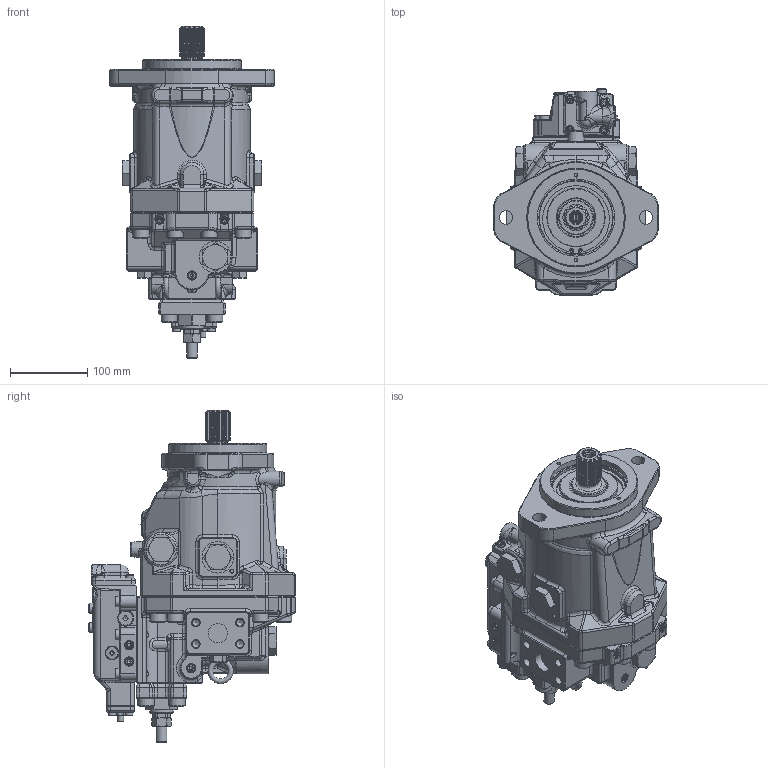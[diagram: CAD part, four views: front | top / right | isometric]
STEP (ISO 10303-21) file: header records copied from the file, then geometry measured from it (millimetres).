
FILE_DESCRIPTION(/* description */ (''),/* implementation_level */ '2;1');
FILE_NAME(/* name */ 'M7V85AB19-AA1P#XXXN-01.stp',/* time_stamp */ '2025-12-17T14:33:05Z',/* author */ ('Sjolliffe'),/* organization */ (''),/* preprocessor_version */ 'ST-DEVELOPER v20',/* originating_system */ 'Autodesk Inventor 2024',/* authorisation */ '');
FILE_SCHEMA (('CONFIG_CONTROL_DESIGN'));
Products named in the file (1): M7V85AB19-AA1P#XXXN-01
Bounding box: 213 x 267 x 430 mm (x, y, z)
Volume: 7438907.7 mm3; surface area: 365843.8 mm2
Topology: 1 solids, 1 shells, 3545 faces, 8863 edges, 5401 vertices
Faces by surface type: plane 1434, cylinder 1032, bspline 495, cone 384, torus 144, sphere 56
Full cylindrical faces by diameter (mm): 3 x1, 4 x1, 4.917 x4, 6 x2, 6.647 x1, 8 x4, 8.376 x1, 9.144 x8, 9.4 x13, 10 x8, 10.106 x1, 11 x8, 11.11 x8, 11.8 x1, 12 x14, 13 x6, 14 x8, 16 x1, 17.5 x2, 18 x2, 19 x1, 21 x13, 23 x12, 24 x3, 25 x2, 26 x1, 30 x1, 41 x3, 44 x1, 45 x1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
Entity records: 127962 total; most frequent: CARTESIAN_POINT 43130, ORIENTED_EDGE 17456, DIRECTION 16391, EDGE_CURVE 8728, AXIS2_PLACEMENT_3D 6093, VERTEX_POINT 5401, LINE 4205, VECTOR 4205
